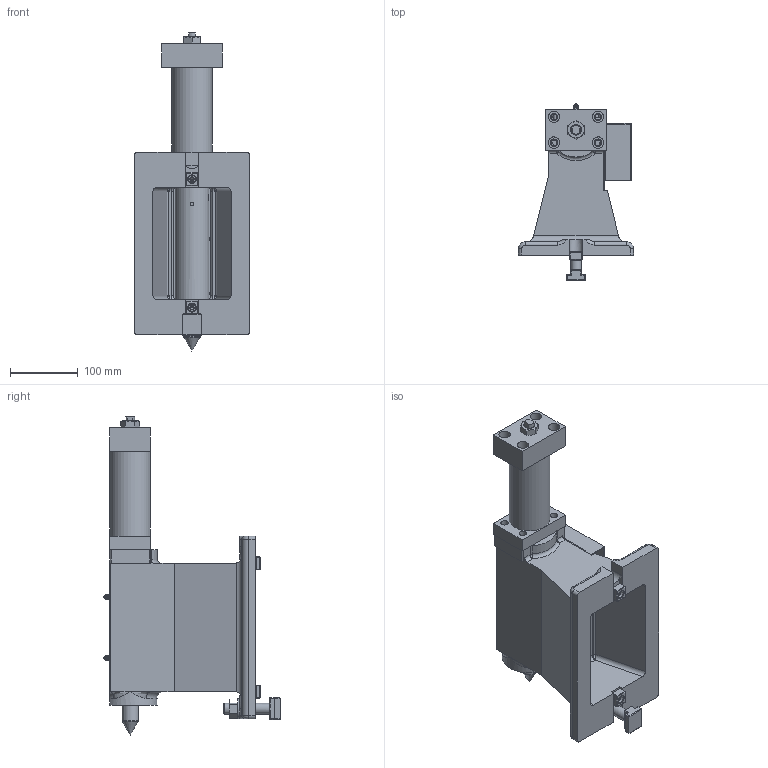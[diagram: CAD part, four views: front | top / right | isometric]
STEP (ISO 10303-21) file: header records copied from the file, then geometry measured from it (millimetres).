
FILE_DESCRIPTION (( 'STEP AP203' ), '1' );
FILE_NAME ('2520168.STEP', '2021-10-04T08:34:24', ( '' ), ( '' ), 'SwSTEP 2.0', 'SolidWorks 2021', '' );
FILE_SCHEMA (( 'CONFIG_CONTROL_DESIGN' ));
Length unit declared in the file: millimetre
Products named in the file (1): 2520168
Bounding box: 170 x 260.43 x 470 mm (x, y, z)
Surface area: 430407.2 mm2 (no closed solid volume)
Topology: 0 solids, 28 shells, 355 faces, 966 edges, 619 vertices
Faces by surface type: plane 174, cylinder 109, torus 27, cone 25, bspline 18, sphere 2
Full cylindrical faces by diameter (mm): 4 x2, 4.2 x3, 5 x2, 5.8 x2, 6 x10, 6.5 x2, 6.6 x2, 6.8 x2, 7 x2, 11 x10, 14 x1, 16 x1, 17 x4, 17.3 x1, 24.1 x1, 30 x1, 50 x1, 53 x1, 56 x1, 60 x1
Entity records: 11938 total; most frequent: CARTESIAN_POINT 3578, DIRECTION 1703, ORIENTED_EDGE 1509, EDGE_CURVE 855, AXIS2_PLACEMENT_3D 622, VERTEX_POINT 599, EDGE_LOOP 495, VECTOR 459
